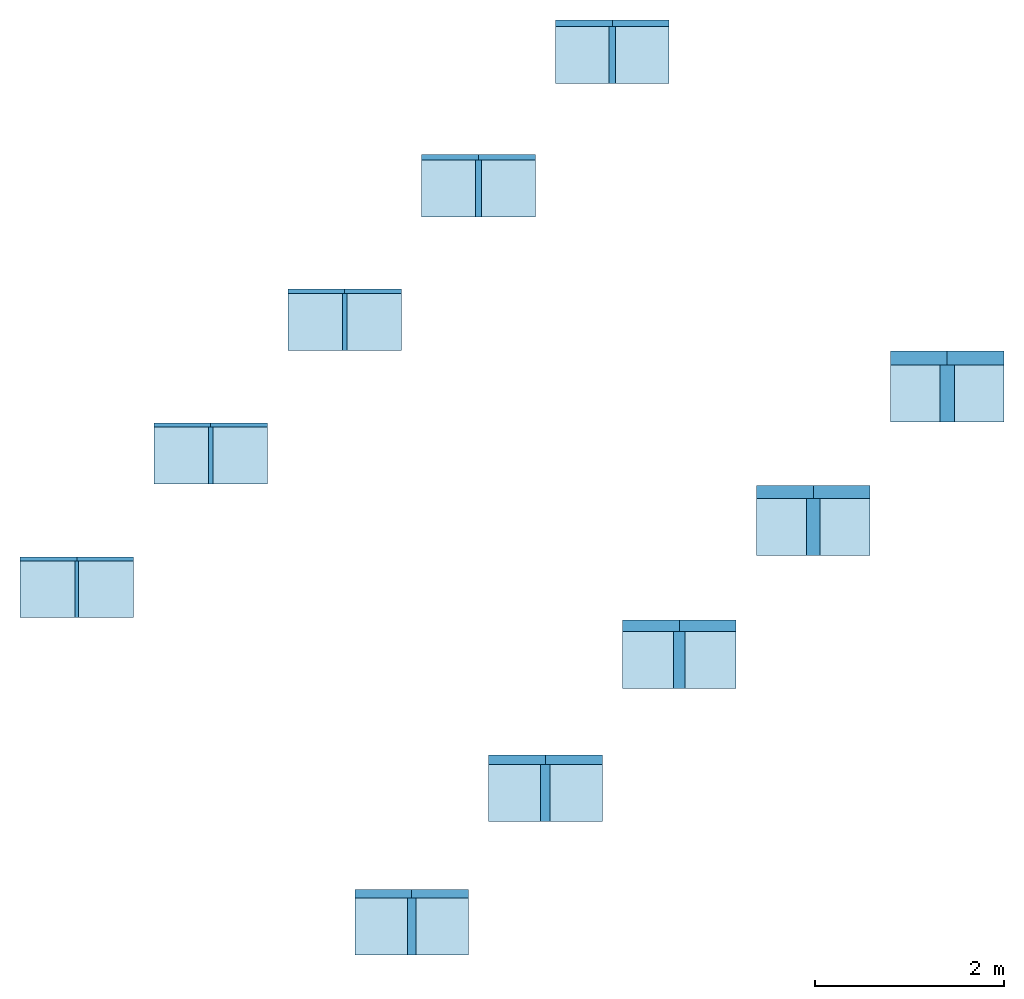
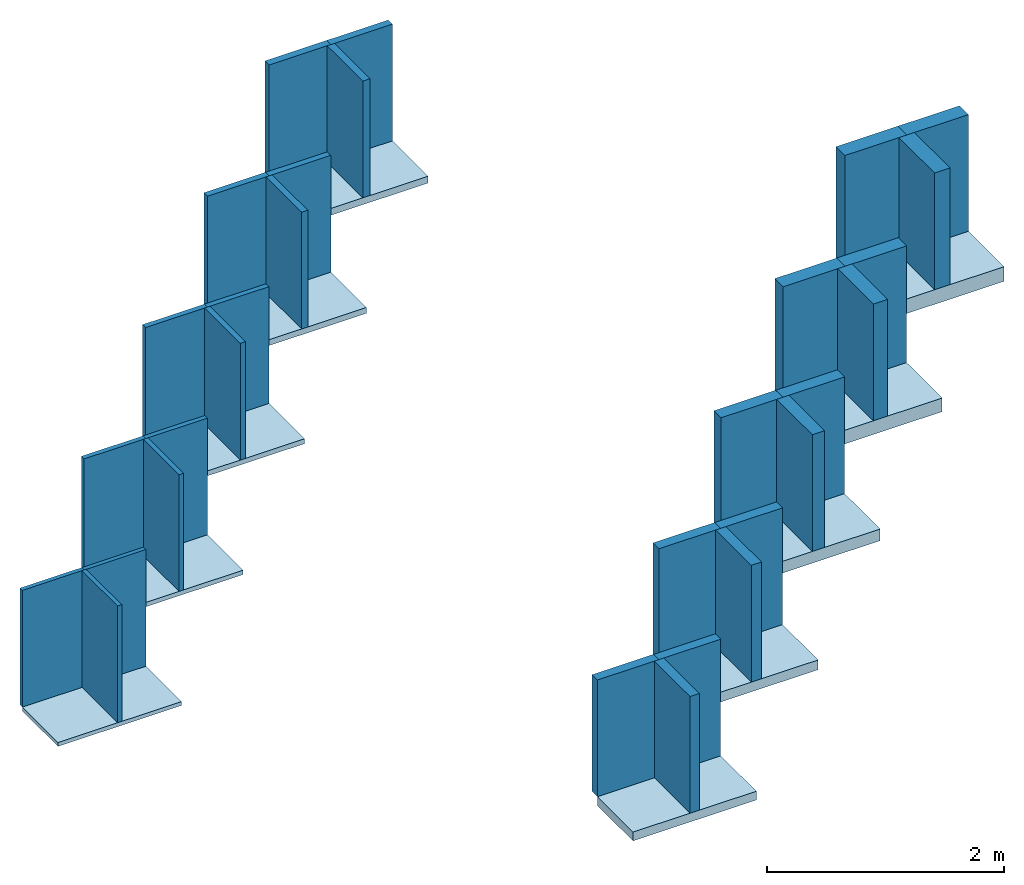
# One storey: 30 walls, 10 slabs.
"""IFC2X3 building model written with IfcOpenShell, lengths in millimetres."""

from ifc_helpers import new_model, entity, si_unit, converted_unit, derived_unit, direction, frame, frame_2d, origin, origin_2d_with_axis, place, context, subcontext, project, spatial, rectangle, extrude, material, layer, layer_set, layer_usage, type_object, element, save


model = new_model("IFC2X3")

# Units and contexts
model_context = context("Model", 3, precision=0.01, world=origin(), true_north=direction((6.12303176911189e-17, 1.0)))
context_of_model = context(None, 3, precision=0.01, world=origin(), true_north=direction((6.12303176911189e-17, 1.0)))
body_context = subcontext(model_context, "Body", "Model", "MODEL_VIEW")
ifc_project = project(units=[si_unit("LENGTHUNIT", "METRE", prefix="MILLI"), si_unit("AREAUNIT", "SQUARE_METRE"), si_unit("VOLUMEUNIT", "CUBIC_METRE"), converted_unit("PLANEANGLEUNIT", "DEGREE", entity("IfcRatioMeasure", 0.0174532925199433), si_unit("PLANEANGLEUNIT", "RADIAN"), dimensions=[0, 0, 0, 0, 0, 0, 0]), si_unit("MASSUNIT", "GRAM", prefix="KILO"), derived_unit("MASSDENSITYUNIT", [(si_unit("MASSUNIT", "GRAM", prefix="KILO"), 1), (si_unit("LENGTHUNIT", "METRE"), -3)]), si_unit("TIMEUNIT", "SECOND"), si_unit("FREQUENCYUNIT", "HERTZ"), si_unit("THERMODYNAMICTEMPERATUREUNIT", "DEGREE_CELSIUS"), derived_unit("THERMALTRANSMITTANCEUNIT", [(si_unit("MASSUNIT", "GRAM", prefix="KILO"), 1), (si_unit("THERMODYNAMICTEMPERATUREUNIT", "KELVIN"), -1), (si_unit("TIMEUNIT", "SECOND"), -3)]), derived_unit("VOLUMETRICFLOWRATEUNIT", [(si_unit("LENGTHUNIT", "METRE"), 3), (si_unit("TIMEUNIT", "SECOND"), -1)]), si_unit("ELECTRICCURRENTUNIT", "AMPERE"), si_unit("ELECTRICVOLTAGEUNIT", "VOLT"), si_unit("POWERUNIT", "WATT"), si_unit("FORCEUNIT", "NEWTON", prefix="KILO"), si_unit("ILLUMINANCEUNIT", "LUX"), si_unit("LUMINOUSFLUXUNIT", "LUMEN"), si_unit("LUMINOUSINTENSITYUNIT", "CANDELA"), derived_unit("USERDEFINED", [(si_unit("MASSUNIT", "GRAM", prefix="KILO"), -1), (si_unit("LENGTHUNIT", "METRE"), -2), (si_unit("TIMEUNIT", "SECOND"), 3), (si_unit("LUMINOUSFLUXUNIT", "LUMEN"), 1)]), derived_unit("LINEARVELOCITYUNIT", [(si_unit("LENGTHUNIT", "METRE"), 1), (si_unit("TIMEUNIT", "SECOND"), -1)]), si_unit("PRESSUREUNIT", "PASCAL"), derived_unit("USERDEFINED", [(si_unit("LENGTHUNIT", "METRE"), -2), (si_unit("MASSUNIT", "GRAM", prefix="KILO"), 1), (si_unit("TIMEUNIT", "SECOND"), -2)])], contexts=[model_context, context_of_model])

# Site, building, storey
site_placement = place(None, origin())
site = spatial("IfcSite", under=ifc_project, at=site_placement, Name="Default", CompositionType="ELEMENT")
building_placement = place(site_placement, origin())
building = spatial("IfcBuilding", under=site, at=building_placement, CompositionType="ELEMENT")
storey_placement = place(building_placement, origin())
storey = spatial("IfcBuildingStorey", under=building, at=storey_placement, Name="begane grond", CompositionType="ELEMENT", Elevation=0.0)

# Slabs
ifc_material = material(Name="Knauf Insulation_Mineral Wool 35  Ecose®minerale wol")
ifc_layer_1 = layer(ifc_material, 40.0)
ifc_layer_set_1 = layer_set([ifc_layer_1], Name="Floor:NLRS_23_FL_Mineral Wool_40x600x1200mm")
ifc_layer_usage_1 = layer_usage(ifc_layer_set_1, "AXIS3", "POSITIVE", 0.0)
slab_type_1 = type_object("IfcSlabType", Name="Floor:NLRS_23_FL_Mineral Wool_40x600x1200mm", PredefinedType="FLOOR", material=ifc_layer_set_1)
slab_1_placement = place(storey_placement, origin())
element("IfcSlab", 1, at=slab_1_placement, inside=storey, type_object=slab_type_1, material=ifc_layer_usage_1, Name="Floor:NLRS_23_FL_Mineral Wool_40x600x1200mm:4095", ObjectType="Floor:NLRS_23_FL_Mineral Wool_40x600x1200mm", PredefinedType="FLOOR", context=body_context, shape_type="SweptSolid", body=[
    extrude(rectangle(XDim=600.0, YDim=1200.0, at=origin_2d_with_axis()), frame((1034.53865336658, 2104.56359102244, 0.0), z_axis=(0.0, 0.0, -1.0), x_axis=(0.0, 1.0, 0.0)), (0.0, 0.0, 1.0), 40.0),
])
ifc_layer_2 = layer(ifc_material, 45.0)
ifc_layer_set_2 = layer_set([ifc_layer_2], Name="Floor:NLRS_23_FL_Mineral Wool_45x600x1200mm")
ifc_layer_usage_2 = layer_usage(ifc_layer_set_2, "AXIS3", "POSITIVE", 0.0)
slab_type_2 = type_object("IfcSlabType", Name="Floor:NLRS_23_FL_Mineral Wool_45x600x1200mm", PredefinedType="FLOOR", material=ifc_layer_set_2)
slab_2_placement = place(storey_placement, origin())
element("IfcSlab", 2, at=slab_2_placement, inside=storey, type_object=slab_type_2, material=ifc_layer_usage_2, Name="Floor:NLRS_23_FL_Mineral Wool_45x600x1200mm:4236", ObjectType="Floor:NLRS_23_FL_Mineral Wool_45x600x1200mm", PredefinedType="FLOOR", context=body_context, shape_type="SweptSolid", body=[
    extrude(rectangle(XDim=600.0, YDim=1200.0, at=frame_2d((0.0, 2.8421709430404e-13), x_axis=(1.0, 0.0))), frame((2448.75221573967, 3516.27715339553, 0.0), z_axis=(0.0, 0.0, -1.0), x_axis=(0.0, 1.0, 0.0)), (0.0, 0.0, 1.0), 45.0),
])
ifc_layer_3 = layer(ifc_material, 50.0)
ifc_layer_set_3 = layer_set([ifc_layer_3], Name="Floor:NLRS_23_FL_Mineral Wool_50x600x1200mm")
ifc_layer_usage_3 = layer_usage(ifc_layer_set_3, "AXIS3", "POSITIVE", 0.0)
slab_type_3 = type_object("IfcSlabType", Name="Floor:NLRS_23_FL_Mineral Wool_50x600x1200mm", PredefinedType="FLOOR", material=ifc_layer_set_3)
slab_3_placement = place(storey_placement, origin())
element("IfcSlab", 3, at=slab_3_placement, inside=storey, type_object=slab_type_3, material=ifc_layer_usage_3, Name="Floor:NLRS_23_FL_Mineral Wool_50x600x1200mm:4284", ObjectType="Floor:NLRS_23_FL_Mineral Wool_50x600x1200mm", PredefinedType="FLOOR", context=body_context, shape_type="SweptSolid", body=[
    extrude(rectangle(XDim=600.000000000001, YDim=1200.0, at=frame_2d((-2.8421709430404e-13, 0.0), x_axis=(1.0, 0.0))), frame((3862.96577811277, 4927.99071576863, 0.0), z_axis=(0.0, 0.0, -1.0), x_axis=(0.0, 1.0, 0.0)), (0.0, 0.0, 1.0), 50.0),
])
ifc_layer_4 = layer(ifc_material, 60.0)
ifc_layer_set_4 = layer_set([ifc_layer_4], Name="Floor:NLRS_23_FL_Mineral Wool_60x600x1200mm")
ifc_layer_usage_4 = layer_usage(ifc_layer_set_4, "AXIS3", "POSITIVE", 0.0)
slab_type_4 = type_object("IfcSlabType", Name="Floor:NLRS_23_FL_Mineral Wool_60x600x1200mm", PredefinedType="FLOOR", material=ifc_layer_set_4)
slab_4_placement = place(storey_placement, origin())
element("IfcSlab", 4, at=slab_4_placement, inside=storey, type_object=slab_type_4, material=ifc_layer_usage_4, Name="Floor:NLRS_23_FL_Mineral Wool_60x600x1200mm:4293", ObjectType="Floor:NLRS_23_FL_Mineral Wool_60x600x1200mm", PredefinedType="FLOOR", context=body_context, shape_type="SweptSolid", body=[
    extrude(rectangle(XDim=600.0, YDim=1200.0, at=origin_2d_with_axis()), frame((5277.17934048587, 6337.20427814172, 0.0), z_axis=(0.0, 0.0, -1.0), x_axis=(0.0, 1.0, 0.0)), (0.0, 0.0, 1.0), 60.0),
])
ifc_layer_5 = layer(ifc_material, 70.0)
ifc_layer_set_5 = layer_set([ifc_layer_5], Name="Floor:NLRS_23_FL_Mineral Wool_70x600x1200mm")
ifc_layer_usage_5 = layer_usage(ifc_layer_set_5, "AXIS3", "POSITIVE", 0.0)
slab_type_5 = type_object("IfcSlabType", Name="Floor:NLRS_23_FL_Mineral Wool_70x600x1200mm", PredefinedType="FLOOR", material=ifc_layer_set_5)
slab_5_placement = place(storey_placement, origin())
element("IfcSlab", 5, at=slab_5_placement, inside=storey, type_object=slab_type_5, material=ifc_layer_usage_5, Name="Floor:NLRS_23_FL_Mineral Wool_70x600x1200mm:4302", ObjectType="Floor:NLRS_23_FL_Mineral Wool_70x600x1200mm", PredefinedType="FLOOR", context=body_context, shape_type="SweptSolid", body=[
    extrude(rectangle(XDim=600.0, YDim=1200.0, at=origin_2d_with_axis()), frame((6691.39290285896, 7746.41784051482, 0.0), z_axis=(0.0, 0.0, -1.0), x_axis=(0.0, 1.0, 0.0)), (0.0, 0.0, 1.0), 70.0),
])
ifc_layer_6 = layer(ifc_material, 90.0)
ifc_layer_set_6 = layer_set([ifc_layer_6], Name="Floor:NLRS_23_FL_Mineral Wool_90x600x1200mm")
ifc_layer_usage_6 = layer_usage(ifc_layer_set_6, "AXIS3", "POSITIVE", 0.0)
slab_type_6 = type_object("IfcSlabType", Name="Floor:NLRS_23_FL_Mineral Wool_90x600x1200mm", PredefinedType="FLOOR", material=ifc_layer_set_6)
slab_6_placement = place(storey_placement, origin())
element("IfcSlab", 6, at=slab_6_placement, inside=storey, type_object=slab_type_6, material=ifc_layer_usage_6, Name="Floor:NLRS_23_FL_Mineral Wool_90x600x1200mm:4688", ObjectType="Floor:NLRS_23_FL_Mineral Wool_90x600x1200mm", PredefinedType="FLOOR", context=body_context, shape_type="SweptSolid", body=[
    extrude(rectangle(XDim=600.0, YDim=1200.0, at=origin_2d_with_axis()), frame((4570.07255929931, -1455.97031491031, 0.0), z_axis=(0.0, 0.0, -1.0), x_axis=(0.0, 1.0, 0.0)), (0.0, 0.0, 1.0), 90.0),
])
ifc_layer_7 = layer(ifc_material, 100.0)
ifc_layer_set_7 = layer_set([ifc_layer_7], Name="Floor:NLRS_23_FL_Mineral Wool_100x600x1200mm")
ifc_layer_usage_7 = layer_usage(ifc_layer_set_7, "AXIS3", "POSITIVE", 0.0)
slab_type_7 = type_object("IfcSlabType", Name="Floor:NLRS_23_FL_Mineral Wool_100x600x1200mm", PredefinedType="FLOOR", material=ifc_layer_set_7)
slab_7_placement = place(storey_placement, origin())
element("IfcSlab", 7, at=slab_7_placement, inside=storey, type_object=slab_type_7, material=ifc_layer_usage_7, Name="Floor:NLRS_23_FL_Mineral Wool_100x600x1200mm:5011", ObjectType="Floor:NLRS_23_FL_Mineral Wool_100x600x1200mm", PredefinedType="FLOOR", context=body_context, shape_type="SweptSolid", body=[
    extrude(rectangle(XDim=600.0, YDim=1200.0, at=origin_2d_with_axis()), frame((5984.2861216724, -46.7567525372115, 0.0), z_axis=(0.0, 0.0, -1.0), x_axis=(0.0, 1.0, 0.0)), (0.0, 0.0, 1.0), 100.0),
])
ifc_layer_8 = layer(ifc_material, 120.0)
ifc_layer_set_8 = layer_set([ifc_layer_8], Name="Floor:NLRS_23_FL_Mineral Wool_120x600x1200mm")
ifc_layer_usage_8 = layer_usage(ifc_layer_set_8, "AXIS3", "POSITIVE", 0.0)
slab_type_8 = type_object("IfcSlabType", Name="Floor:NLRS_23_FL_Mineral Wool_120x600x1200mm", PredefinedType="FLOOR", material=ifc_layer_set_8)
slab_8_placement = place(storey_placement, origin())
element("IfcSlab", 8, at=slab_8_placement, inside=storey, type_object=slab_type_8, material=ifc_layer_usage_8, Name="Floor:NLRS_23_FL_Mineral Wool_120x600x1200mm:5060", ObjectType="Floor:NLRS_23_FL_Mineral Wool_120x600x1200mm", PredefinedType="FLOOR", context=body_context, shape_type="SweptSolid", body=[
    extrude(rectangle(XDim=600.0, YDim=1200.0, at=origin_2d_with_axis()), frame((7398.4996840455, 1357.45680983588, 0.0), z_axis=(0.0, 0.0, -1.0), x_axis=(0.0, 1.0, 0.0)), (0.0, 0.0, 1.0), 120.0),
])
ifc_layer_9 = layer(ifc_material, 140.0)
ifc_layer_set_9 = layer_set([ifc_layer_9], Name="Floor:NLRS_23_FL_Mineral Wool_140x600x1200mm")
ifc_layer_usage_9 = layer_usage(ifc_layer_set_9, "AXIS3", "POSITIVE", 0.0)
slab_type_9 = type_object("IfcSlabType", Name="Floor:NLRS_23_FL_Mineral Wool_140x600x1200mm", PredefinedType="FLOOR", material=ifc_layer_set_9)
slab_9_placement = place(storey_placement, origin())
element("IfcSlab", 9, at=slab_9_placement, inside=storey, type_object=slab_type_9, material=ifc_layer_usage_9, Name="Floor:NLRS_23_FL_Mineral Wool_140x600x1200mm:5083", ObjectType="Floor:NLRS_23_FL_Mineral Wool_140x600x1200mm", PredefinedType="FLOOR", context=body_context, shape_type="SweptSolid", body=[
    extrude(rectangle(XDim=600.0, YDim=1200.0, at=origin_2d_with_axis()), frame((8812.71324641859, 2761.67037220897, 0.0), z_axis=(0.0, 0.0, -1.0), x_axis=(0.0, 1.0, 0.0)), (0.0, 0.0, 1.0), 140.0),
])
ifc_layer_10 = layer(ifc_material, 150.0)
ifc_layer_set_10 = layer_set([ifc_layer_10], Name="Floor:NLRS_23_FL_Mineral Wool_150x600x1200mm")
ifc_layer_usage_10 = layer_usage(ifc_layer_set_10, "AXIS3", "POSITIVE", 0.0)
slab_type_10 = type_object("IfcSlabType", Name="Floor:NLRS_23_FL_Mineral Wool_150x600x1200mm", PredefinedType="FLOOR", material=ifc_layer_set_10)
slab_10_placement = place(storey_placement, origin())
element("IfcSlab", 10, at=slab_10_placement, inside=storey, type_object=slab_type_10, material=ifc_layer_usage_10, Name="Floor:NLRS_23_FL_Mineral Wool_150x600x1200mm:5092", ObjectType="Floor:NLRS_23_FL_Mineral Wool_150x600x1200mm", PredefinedType="FLOOR", context=body_context, shape_type="SweptSolid", body=[
    extrude(rectangle(XDim=600.0, YDim=1200.0, at=origin_2d_with_axis()), frame((10226.9268087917, 4170.88393458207, 0.0), z_axis=(0.0, 0.0, -1.0), x_axis=(0.0, 1.0, 0.0)), (0.0, 0.0, 1.0), 150.0),
])

# Walls
ifc_layer_11 = layer(ifc_material, 40.0)
ifc_layer_set_11 = layer_set([ifc_layer_11], Name="Basic Wall:NLRS_22_WA_Mineral Wool 35_40x600x1200mm")
ifc_layer_usage_11 = layer_usage(ifc_layer_set_11, "AXIS2", "NEGATIVE", 20.0)
wall_type_1 = type_object("IfcWallType", Name="Basic Wall:NLRS_22_WA_Mineral Wool 35_40x600x1200mm", PredefinedType="STANDARD", material=ifc_layer_set_11)
wall_1_placement = place(storey_placement, frame((434.538653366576, 2424.56359102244, 0.0)))
element("IfcWallStandardCase", 11, at=wall_1_placement, inside=storey, type_object=wall_type_1, material=ifc_layer_usage_11, Name="Basic Wall:NLRS_22_WA_Mineral Wool 35_40x600x1200mm:2458", ObjectType="Basic Wall:NLRS_22_WA_Mineral Wool 35_40x600x1200mm", context=body_context, shape_type="SweptSolid", body=[
    extrude(rectangle(XDim=600.0, YDim=39.9999999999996, at=frame_2d((300.0, -2.71782596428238e-13), x_axis=(-1.0, 0.0))), origin(), (0.0, 0.0, 1.0), 1200.0),
])
ifc_layer_usage_12 = layer_usage(ifc_layer_set_11, "AXIS2", "NEGATIVE", 20.0)
wall_2_placement = place(storey_placement, frame((1034.53865336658, 2424.56359102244, 0.0)))
element("IfcWallStandardCase", 12, at=wall_2_placement, inside=storey, type_object=wall_type_1, material=ifc_layer_usage_12, Name="Basic Wall:NLRS_22_WA_Mineral Wool 35_40x600x1200mm:3351", ObjectType="Basic Wall:NLRS_22_WA_Mineral Wool 35_40x600x1200mm", context=body_context, shape_type="SweptSolid", body=[
    extrude(rectangle(XDim=600.0, YDim=39.9999999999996, at=frame_2d((300.0, -2.71782596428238e-13), x_axis=(-1.0, 0.0))), origin(), (0.0, 0.0, 1.0), 1200.0),
])
ifc_layer_usage_13 = layer_usage(ifc_layer_set_11, "AXIS2", "NEGATIVE", 20.0)
wall_3_placement = place(storey_placement, frame((1034.53865336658, 2404.56359102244, 0.0), z_axis=(0.0, 0.0, 1.0), x_axis=(0.0, -1.0, 0.0)))
element("IfcWallStandardCase", 13, at=wall_3_placement, inside=storey, type_object=wall_type_1, material=ifc_layer_usage_13, Name="Basic Wall:NLRS_22_WA_Mineral Wool 35_40x600x1200mm:3395", ObjectType="Basic Wall:NLRS_22_WA_Mineral Wool 35_40x600x1200mm", context=body_context, shape_type="SweptSolid", body=[
    extrude(rectangle(XDim=600.0, YDim=40.0000000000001, at=frame_2d((300.0, 0.0), x_axis=(-1.0, 0.0))), origin(), (0.0, 0.0, 1.0), 1200.0),
])
ifc_layer_12 = layer(ifc_material, 45.0)
ifc_layer_set_12 = layer_set([ifc_layer_12], Name="Basic Wall:NLRS_22_WA_Mineral Wool 35_45x600x1200mm")
ifc_layer_usage_14 = layer_usage(ifc_layer_set_12, "AXIS2", "NEGATIVE", 22.5)
wall_type_2 = type_object("IfcWallType", Name="Basic Wall:NLRS_22_WA_Mineral Wool 35_45x600x1200mm", PredefinedType="STANDARD", material=ifc_layer_set_12)
wall_4_placement = place(storey_placement, frame((1848.75221573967, 3838.77715339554, 0.0)))
element("IfcWallStandardCase", 14, at=wall_4_placement, inside=storey, type_object=wall_type_2, material=ifc_layer_usage_14, Name="Basic Wall:NLRS_22_WA_Mineral Wool 35_45x600x1200mm:3514", ObjectType="Basic Wall:NLRS_22_WA_Mineral Wool 35_45x600x1200mm", context=body_context, shape_type="SweptSolid", body=[
    extrude(rectangle(XDim=600.0, YDim=44.9999999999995, at=frame_2d((300.0, -1.35003119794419e-13), x_axis=(-1.0, 0.0))), origin(), (0.0, 0.0, 1.0), 1200.0),
])
ifc_layer_usage_15 = layer_usage(ifc_layer_set_12, "AXIS2", "NEGATIVE", 22.5)
wall_5_placement = place(storey_placement, frame((2448.75221573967, 3838.77715339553, 0.0)))
element("IfcWallStandardCase", 15, at=wall_5_placement, inside=storey, type_object=wall_type_2, material=ifc_layer_usage_15, Name="Basic Wall:NLRS_22_WA_Mineral Wool 35_45x600x1200mm:3516", ObjectType="Basic Wall:NLRS_22_WA_Mineral Wool 35_45x600x1200mm", context=body_context, shape_type="SweptSolid", body=[
    extrude(rectangle(XDim=600.0, YDim=44.9999999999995, at=frame_2d((300.0, -1.35003119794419e-13), x_axis=(-1.0, 0.0))), origin(), (0.0, 0.0, 1.0), 1200.0),
])
ifc_layer_usage_16 = layer_usage(ifc_layer_set_12, "AXIS2", "NEGATIVE", 22.5)
wall_6_placement = place(storey_placement, frame((2448.75221573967, 3816.27715339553, 0.0), z_axis=(0.0, 0.0, 1.0), x_axis=(0.0, -1.0, 0.0)))
element("IfcWallStandardCase", 16, at=wall_6_placement, inside=storey, type_object=wall_type_2, material=ifc_layer_usage_16, Name="Basic Wall:NLRS_22_WA_Mineral Wool 35_45x600x1200mm:3517", ObjectType="Basic Wall:NLRS_22_WA_Mineral Wool 35_45x600x1200mm", context=body_context, shape_type="SweptSolid", body=[
    extrude(rectangle(XDim=600.0, YDim=44.9999999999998, at=frame_2d((300.0, -1.33226762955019e-13), x_axis=(-1.0, 0.0))), origin(), (0.0, 0.0, 1.0), 1200.0),
])
ifc_layer_13 = layer(ifc_material, 50.0)
ifc_layer_set_13 = layer_set([ifc_layer_13], Name="Basic Wall:NLRS_22_WA_Mineral Wool 35_50x600x1200mm")
ifc_layer_usage_17 = layer_usage(ifc_layer_set_13, "AXIS2", "NEGATIVE", 25.0)
wall_type_3 = type_object("IfcWallType", Name="Basic Wall:NLRS_22_WA_Mineral Wool 35_50x600x1200mm", PredefinedType="STANDARD", material=ifc_layer_set_13)
wall_7_placement = place(storey_placement, frame((3262.96577811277, 5252.99071576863, 0.0)))
element("IfcWallStandardCase", 17, at=wall_7_placement, inside=storey, type_object=wall_type_3, material=ifc_layer_usage_17, Name="Basic Wall:NLRS_22_WA_Mineral Wool 35_50x600x1200mm:3581", ObjectType="Basic Wall:NLRS_22_WA_Mineral Wool 35_50x600x1200mm", context=body_context, shape_type="SweptSolid", body=[
    extrude(rectangle(XDim=600.0, YDim=49.9999999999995, at=frame_2d((300.0, -1.35003119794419e-13), x_axis=(-1.0, 0.0))), origin(), (0.0, 0.0, 1.0), 1200.0),
])
ifc_layer_usage_18 = layer_usage(ifc_layer_set_13, "AXIS2", "NEGATIVE", 25.0)
wall_8_placement = place(storey_placement, frame((3862.96577811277, 5252.99071576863, 0.0)))
element("IfcWallStandardCase", 18, at=wall_8_placement, inside=storey, type_object=wall_type_3, material=ifc_layer_usage_18, Name="Basic Wall:NLRS_22_WA_Mineral Wool 35_50x600x1200mm:3582", ObjectType="Basic Wall:NLRS_22_WA_Mineral Wool 35_50x600x1200mm", context=body_context, shape_type="SweptSolid", body=[
    extrude(rectangle(XDim=600.0, YDim=49.9999999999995, at=frame_2d((300.0, -1.35003119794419e-13), x_axis=(-1.0, 0.0))), origin(), (0.0, 0.0, 1.0), 1200.0),
])
ifc_layer_usage_19 = layer_usage(ifc_layer_set_13, "AXIS2", "NEGATIVE", 25.0)
wall_9_placement = place(storey_placement, frame((3862.96577811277, 5227.99071576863, 0.0), z_axis=(0.0, 0.0, 1.0), x_axis=(0.0, -1.0, 0.0)))
element("IfcWallStandardCase", 19, at=wall_9_placement, inside=storey, type_object=wall_type_3, material=ifc_layer_usage_19, Name="Basic Wall:NLRS_22_WA_Mineral Wool 35_50x600x1200mm:3583", ObjectType="Basic Wall:NLRS_22_WA_Mineral Wool 35_50x600x1200mm", context=body_context, shape_type="SweptSolid", body=[
    extrude(rectangle(XDim=600.000000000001, YDim=50.0000000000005, at=frame_2d((300.0, 3.5527136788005e-15), x_axis=(-1.0, 0.0))), origin(), (0.0, 0.0, 1.0), 1200.0),
])
ifc_layer_14 = layer(ifc_material, 60.0)
ifc_layer_set_14 = layer_set([ifc_layer_14], Name="Basic Wall:NLRS_22_WA_Mineral Wool 35_60x600x1200mm")
ifc_layer_usage_20 = layer_usage(ifc_layer_set_14, "AXIS2", "NEGATIVE", 30.0)
wall_type_4 = type_object("IfcWallType", Name="Basic Wall:NLRS_22_WA_Mineral Wool 35_60x600x1200mm", PredefinedType="STANDARD", material=ifc_layer_set_14)
wall_10_placement = place(storey_placement, frame((4677.17934048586, 6667.20427814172, 0.0)))
element("IfcWallStandardCase", 20, at=wall_10_placement, inside=storey, type_object=wall_type_4, material=ifc_layer_usage_20, Name="Basic Wall:NLRS_22_WA_Mineral Wool 35_60x600x1200mm:3682", ObjectType="Basic Wall:NLRS_22_WA_Mineral Wool 35_60x600x1200mm", context=body_context, shape_type="SweptSolid", body=[
    extrude(rectangle(XDim=600.0, YDim=59.9999999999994, at=frame_2d((300.0, -1.35003119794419e-13), x_axis=(-1.0, 0.0))), origin(), (0.0, 0.0, 1.0), 1200.0),
])
ifc_layer_usage_21 = layer_usage(ifc_layer_set_14, "AXIS2", "NEGATIVE", 30.0)
wall_11_placement = place(storey_placement, frame((5277.17934048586, 6667.20427814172, 0.0)))
element("IfcWallStandardCase", 21, at=wall_11_placement, inside=storey, type_object=wall_type_4, material=ifc_layer_usage_21, Name="Basic Wall:NLRS_22_WA_Mineral Wool 35_60x600x1200mm:3683", ObjectType="Basic Wall:NLRS_22_WA_Mineral Wool 35_60x600x1200mm", context=body_context, shape_type="SweptSolid", body=[
    extrude(rectangle(XDim=600.0, YDim=59.9999999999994, at=frame_2d((300.0, -1.35003119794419e-13), x_axis=(-1.0, 0.0))), origin(), (0.0, 0.0, 1.0), 1200.0),
])
ifc_layer_usage_22 = layer_usage(ifc_layer_set_14, "AXIS2", "NEGATIVE", 30.0)
wall_12_placement = place(storey_placement, frame((5277.17934048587, 6637.20427814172, 0.0), z_axis=(0.0, 0.0, 1.0), x_axis=(0.0, -1.0, 0.0)))
element("IfcWallStandardCase", 22, at=wall_12_placement, inside=storey, type_object=wall_type_4, material=ifc_layer_usage_22, Name="Basic Wall:NLRS_22_WA_Mineral Wool 35_60x600x1200mm:3684", ObjectType="Basic Wall:NLRS_22_WA_Mineral Wool 35_60x600x1200mm", context=body_context, shape_type="SweptSolid", body=[
    extrude(rectangle(XDim=599.999999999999, YDim=59.9999999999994, at=frame_2d((299.999999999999, -6.75015598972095e-14), x_axis=(-1.0, 0.0))), origin(), (0.0, 0.0, 1.0), 1200.0),
])
ifc_layer_15 = layer(ifc_material, 70.0)
ifc_layer_set_15 = layer_set([ifc_layer_15], Name="Basic Wall:NLRS_22_WA_Mineral Wool 35_70x600x1200mm")
ifc_layer_usage_23 = layer_usage(ifc_layer_set_15, "AXIS2", "NEGATIVE", 35.0)
wall_type_5 = type_object("IfcWallType", Name="Basic Wall:NLRS_22_WA_Mineral Wool 35_70x600x1200mm", PredefinedType="STANDARD", material=ifc_layer_set_15)
wall_13_placement = place(storey_placement, frame((6091.39290285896, 8081.41784051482, 0.0)))
element("IfcWallStandardCase", 23, at=wall_13_placement, inside=storey, type_object=wall_type_5, material=ifc_layer_usage_23, Name="Basic Wall:NLRS_22_WA_Mineral Wool 35_70x600x1200mm:3760", ObjectType="Basic Wall:NLRS_22_WA_Mineral Wool 35_70x600x1200mm", context=body_context, shape_type="SweptSolid", body=[
    extrude(rectangle(XDim=600.0, YDim=69.9999999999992, at=frame_2d((300.0, -1.35003119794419e-13), x_axis=(-1.0, 0.0))), origin(), (0.0, 0.0, 1.0), 1200.0),
])
ifc_layer_usage_24 = layer_usage(ifc_layer_set_15, "AXIS2", "NEGATIVE", 35.0)
wall_14_placement = place(storey_placement, frame((6691.39290285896, 8081.41784051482, 0.0)))
element("IfcWallStandardCase", 24, at=wall_14_placement, inside=storey, type_object=wall_type_5, material=ifc_layer_usage_24, Name="Basic Wall:NLRS_22_WA_Mineral Wool 35_70x600x1200mm:3761", ObjectType="Basic Wall:NLRS_22_WA_Mineral Wool 35_70x600x1200mm", context=body_context, shape_type="SweptSolid", body=[
    extrude(rectangle(XDim=600.0, YDim=69.9999999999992, at=frame_2d((300.0, -1.35003119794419e-13), x_axis=(-1.0, 0.0))), origin(), (0.0, 0.0, 1.0), 1200.0),
])
ifc_layer_usage_25 = layer_usage(ifc_layer_set_15, "AXIS2", "NEGATIVE", 35.0)
wall_15_placement = place(storey_placement, frame((6691.39290285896, 8046.41784051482, 0.0), z_axis=(0.0, 0.0, 1.0), x_axis=(0.0, -1.0, 0.0)))
element("IfcWallStandardCase", 25, at=wall_15_placement, inside=storey, type_object=wall_type_5, material=ifc_layer_usage_25, Name="Basic Wall:NLRS_22_WA_Mineral Wool 35_70x600x1200mm:3762", ObjectType="Basic Wall:NLRS_22_WA_Mineral Wool 35_70x600x1200mm", context=body_context, shape_type="SweptSolid", body=[
    extrude(rectangle(XDim=599.999999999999, YDim=69.9999999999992, at=frame_2d((299.999999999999, -6.75015598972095e-14), x_axis=(-1.0, 0.0))), origin(), (0.0, 0.0, 1.0), 1200.0),
])
ifc_layer_16 = layer(ifc_material, 90.0)
ifc_layer_set_16 = layer_set([ifc_layer_16], Name="Basic Wall:NLRS_22_WA_Mineral Wool 35_90x600x1200mm")
ifc_layer_usage_26 = layer_usage(ifc_layer_set_16, "AXIS2", "NEGATIVE", 45.0)
wall_type_6 = type_object("IfcWallType", Name="Basic Wall:NLRS_22_WA_Mineral Wool 35_90x600x1200mm", PredefinedType="STANDARD", material=ifc_layer_set_16)
wall_16_placement = place(storey_placement, frame((3970.07255929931, -1110.97031491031, 0.0)))
element("IfcWallStandardCase", 26, at=wall_16_placement, inside=storey, type_object=wall_type_6, material=ifc_layer_usage_26, Name="Basic Wall:NLRS_22_WA_Mineral Wool 35_90x600x1200mm:3864", ObjectType="Basic Wall:NLRS_22_WA_Mineral Wool 35_90x600x1200mm", context=body_context, shape_type="SweptSolid", body=[
    extrude(rectangle(XDim=600.000000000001, YDim=90.0000000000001, at=frame_2d((300.0, 0.0), x_axis=(-1.0, 0.0))), origin(), (0.0, 0.0, 1.0), 1200.0),
])
ifc_layer_usage_27 = layer_usage(ifc_layer_set_16, "AXIS2", "NEGATIVE", 45.0)
wall_17_placement = place(storey_placement, frame((4570.07255929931, -1110.97031491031, 0.0)))
element("IfcWallStandardCase", 27, at=wall_17_placement, inside=storey, type_object=wall_type_6, material=ifc_layer_usage_27, Name="Basic Wall:NLRS_22_WA_Mineral Wool 35_90x600x1200mm:3866", ObjectType="Basic Wall:NLRS_22_WA_Mineral Wool 35_90x600x1200mm", context=body_context, shape_type="SweptSolid", body=[
    extrude(rectangle(XDim=600.000000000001, YDim=90.0000000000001, at=frame_2d((300.0, 0.0), x_axis=(-1.0, 0.0))), origin(), (0.0, 0.0, 1.0), 1200.0),
])
ifc_layer_usage_28 = layer_usage(ifc_layer_set_16, "AXIS2", "NEGATIVE", 45.0)
wall_18_placement = place(storey_placement, frame((4570.07255929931, -1155.97031491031, 0.0), z_axis=(0.0, 0.0, 1.0), x_axis=(0.0, -1.0, 0.0)))
element("IfcWallStandardCase", 28, at=wall_18_placement, inside=storey, type_object=wall_type_6, material=ifc_layer_usage_28, Name="Basic Wall:NLRS_22_WA_Mineral Wool 35_90x600x1200mm:3867", ObjectType="Basic Wall:NLRS_22_WA_Mineral Wool 35_90x600x1200mm", context=body_context, shape_type="SweptSolid", body=[
    extrude(rectangle(XDim=600.0, YDim=90.0000000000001, at=frame_2d((300.0, -6.75015598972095e-14), x_axis=(-1.0, 0.0))), origin(), (0.0, 0.0, 1.0), 1200.0),
])
ifc_layer_17 = layer(ifc_material, 100.0)
ifc_layer_set_17 = layer_set([ifc_layer_17], Name="Basic Wall:NLRS_22_WA_Mineral Wool 35_100x600x1200mm")
ifc_layer_usage_29 = layer_usage(ifc_layer_set_17, "AXIS2", "NEGATIVE", 50.0)
wall_type_7 = type_object("IfcWallType", Name="Basic Wall:NLRS_22_WA_Mineral Wool 35_100x600x1200mm", PredefinedType="STANDARD", material=ifc_layer_set_17)
wall_19_placement = place(storey_placement, frame((5384.2861216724, 303.24324746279, 0.0)))
element("IfcWallStandardCase", 29, at=wall_19_placement, inside=storey, type_object=wall_type_7, material=ifc_layer_usage_29, Name="Basic Wall:NLRS_22_WA_Mineral Wool 35_100x600x1200mm:3868", ObjectType="Basic Wall:NLRS_22_WA_Mineral Wool 35_100x600x1200mm", context=body_context, shape_type="SweptSolid", body=[
    extrude(rectangle(XDim=600.0, YDim=100.0, at=frame_2d((300.0, 0.0), x_axis=(-1.0, 0.0))), origin(), (0.0, 0.0, 1.0), 1200.0),
])
ifc_layer_usage_30 = layer_usage(ifc_layer_set_17, "AXIS2", "NEGATIVE", 50.0)
wall_20_placement = place(storey_placement, frame((5984.2861216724, 303.243247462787, 0.0)))
element("IfcWallStandardCase", 30, at=wall_20_placement, inside=storey, type_object=wall_type_7, material=ifc_layer_usage_30, Name="Basic Wall:NLRS_22_WA_Mineral Wool 35_100x600x1200mm:3869", ObjectType="Basic Wall:NLRS_22_WA_Mineral Wool 35_100x600x1200mm", context=body_context, shape_type="SweptSolid", body=[
    extrude(rectangle(XDim=600.0, YDim=100.0, at=frame_2d((300.0, 0.0), x_axis=(-1.0, 0.0))), origin(), (0.0, 0.0, 1.0), 1200.0),
])
ifc_layer_usage_31 = layer_usage(ifc_layer_set_17, "AXIS2", "NEGATIVE", 50.0)
wall_21_placement = place(storey_placement, frame((5984.2861216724, 253.243247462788, 0.0), z_axis=(0.0, 0.0, 1.0), x_axis=(0.0, -1.0, 0.0)))
element("IfcWallStandardCase", 31, at=wall_21_placement, inside=storey, type_object=wall_type_7, material=ifc_layer_usage_31, Name="Basic Wall:NLRS_22_WA_Mineral Wool 35_100x600x1200mm:3870", ObjectType="Basic Wall:NLRS_22_WA_Mineral Wool 35_100x600x1200mm", context=body_context, shape_type="SweptSolid", body=[
    extrude(rectangle(XDim=600.0, YDim=99.9999999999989, at=frame_2d((300.0, -6.75015598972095e-14), x_axis=(-1.0, 0.0))), origin(), (0.0, 0.0, 1.0), 1200.0),
])
ifc_layer_18 = layer(ifc_material, 120.0)
ifc_layer_set_18 = layer_set([ifc_layer_18], Name="Basic Wall:NLRS_22_WA_Mineral Wool 35_120x600x1200mm")
ifc_layer_usage_32 = layer_usage(ifc_layer_set_18, "AXIS2", "NEGATIVE", 60.0)
wall_type_8 = type_object("IfcWallType", Name="Basic Wall:NLRS_22_WA_Mineral Wool 35_120x600x1200mm", PredefinedType="STANDARD", material=ifc_layer_set_18)
wall_22_placement = place(storey_placement, frame((6798.4996840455, 1717.45680983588, 0.0)))
element("IfcWallStandardCase", 32, at=wall_22_placement, inside=storey, type_object=wall_type_8, material=ifc_layer_usage_32, Name="Basic Wall:NLRS_22_WA_Mineral Wool 35_120x600x1200mm:3871", ObjectType="Basic Wall:NLRS_22_WA_Mineral Wool 35_120x600x1200mm", context=body_context, shape_type="SweptSolid", body=[
    extrude(rectangle(XDim=600.0, YDim=120.0, at=frame_2d((300.0, 0.0), x_axis=(-1.0, 0.0))), origin(), (0.0, 0.0, 1.0), 1200.0),
])
ifc_layer_usage_33 = layer_usage(ifc_layer_set_18, "AXIS2", "NEGATIVE", 60.0)
wall_23_placement = place(storey_placement, frame((7398.4996840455, 1717.45680983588, 0.0)))
element("IfcWallStandardCase", 33, at=wall_23_placement, inside=storey, type_object=wall_type_8, material=ifc_layer_usage_33, Name="Basic Wall:NLRS_22_WA_Mineral Wool 35_120x600x1200mm:3872", ObjectType="Basic Wall:NLRS_22_WA_Mineral Wool 35_120x600x1200mm", context=body_context, shape_type="SweptSolid", body=[
    extrude(rectangle(XDim=600.0, YDim=120.0, at=frame_2d((300.0, 0.0), x_axis=(-1.0, 0.0))), origin(), (0.0, 0.0, 1.0), 1200.0),
])
ifc_layer_usage_34 = layer_usage(ifc_layer_set_18, "AXIS2", "POSITIVE", -60.0)
wall_24_placement = place(storey_placement, frame((7398.4996840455, 1657.45680983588, 0.0), z_axis=(0.0, 0.0, 1.0), x_axis=(0.0, -1.0, 0.0)))
element("IfcWallStandardCase", 34, at=wall_24_placement, inside=storey, type_object=wall_type_8, material=ifc_layer_usage_34, Name="Basic Wall:NLRS_22_WA_Mineral Wool 35_120x600x1200mm:3873", ObjectType="Basic Wall:NLRS_22_WA_Mineral Wool 35_120x600x1200mm", context=body_context, shape_type="SweptSolid", body=[
    extrude(rectangle(XDim=600.000000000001, YDim=120.000000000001, at=frame_2d((300.0, -7.105427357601e-14), x_axis=(-1.0, 0.0))), origin(), (0.0, 0.0, 1.0), 1200.0),
])
ifc_layer_19 = layer(ifc_material, 140.0)
ifc_layer_set_19 = layer_set([ifc_layer_19], Name="Basic Wall:NLRS_22_WA_Mineral Wool 35_140x600x1200mm")
ifc_layer_usage_35 = layer_usage(ifc_layer_set_19, "AXIS2", "NEGATIVE", 70.0)
wall_type_9 = type_object("IfcWallType", Name="Basic Wall:NLRS_22_WA_Mineral Wool 35_140x600x1200mm", PredefinedType="STANDARD", material=ifc_layer_set_19)
wall_25_placement = place(storey_placement, frame((8212.71324641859, 3131.67037220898, 0.0)))
element("IfcWallStandardCase", 35, at=wall_25_placement, inside=storey, type_object=wall_type_9, material=ifc_layer_usage_35, Name="Basic Wall:NLRS_22_WA_Mineral Wool 35_140x600x1200mm:3874", ObjectType="Basic Wall:NLRS_22_WA_Mineral Wool 35_140x600x1200mm", context=body_context, shape_type="SweptSolid", body=[
    extrude(rectangle(XDim=600.0, YDim=140.0, at=frame_2d((300.0, -1.35003119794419e-13), x_axis=(-1.0, 0.0))), origin(), (0.0, 0.0, 1.0), 1200.0),
])
ifc_layer_usage_36 = layer_usage(ifc_layer_set_19, "AXIS2", "NEGATIVE", 70.0)
wall_26_placement = place(storey_placement, frame((8812.71324641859, 3131.67037220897, 0.0)))
element("IfcWallStandardCase", 36, at=wall_26_placement, inside=storey, type_object=wall_type_9, material=ifc_layer_usage_36, Name="Basic Wall:NLRS_22_WA_Mineral Wool 35_140x600x1200mm:3875", ObjectType="Basic Wall:NLRS_22_WA_Mineral Wool 35_140x600x1200mm", context=body_context, shape_type="SweptSolid", body=[
    extrude(rectangle(XDim=600.0, YDim=140.0, at=frame_2d((300.0, -1.35003119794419e-13), x_axis=(-1.0, 0.0))), origin(), (0.0, 0.0, 1.0), 1200.0),
])
ifc_layer_usage_37 = layer_usage(ifc_layer_set_19, "AXIS2", "NEGATIVE", 70.0)
wall_27_placement = place(storey_placement, frame((8812.71324641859, 3061.67037220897, 0.0), z_axis=(0.0, 0.0, 1.0), x_axis=(0.0, -1.0, 0.0)))
element("IfcWallStandardCase", 37, at=wall_27_placement, inside=storey, type_object=wall_type_9, material=ifc_layer_usage_37, Name="Basic Wall:NLRS_22_WA_Mineral Wool 35_140x600x1200mm:3876", ObjectType="Basic Wall:NLRS_22_WA_Mineral Wool 35_140x600x1200mm", context=body_context, shape_type="SweptSolid", body=[
    extrude(rectangle(XDim=600.0, YDim=140.000000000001, at=frame_2d((300.0, -6.3948846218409e-14), x_axis=(-1.0, 0.0))), origin(), (0.0, 0.0, 1.0), 1200.0),
])
ifc_layer_20 = layer(ifc_material, 150.0)
ifc_layer_set_20 = layer_set([ifc_layer_20], Name="Basic Wall:NLRS_22_WA_Mineral Wool 35_150x600x1200mm")
ifc_layer_usage_38 = layer_usage(ifc_layer_set_20, "AXIS2", "NEGATIVE", 75.0)
wall_type_10 = type_object("IfcWallType", Name="Basic Wall:NLRS_22_WA_Mineral Wool 35_150x600x1200mm", PredefinedType="STANDARD", material=ifc_layer_set_20)
wall_28_placement = place(storey_placement, frame((9626.92680879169, 4545.88393458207, 0.0)))
element("IfcWallStandardCase", 38, at=wall_28_placement, inside=storey, type_object=wall_type_10, material=ifc_layer_usage_38, Name="Basic Wall:NLRS_22_WA_Mineral Wool 35_150x600x1200mm:3877", ObjectType="Basic Wall:NLRS_22_WA_Mineral Wool 35_150x600x1200mm", context=body_context, shape_type="SweptSolid", body=[
    extrude(rectangle(XDim=600.0, YDim=150.000000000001, at=frame_2d((300.0, -1.35003119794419e-13), x_axis=(-1.0, 0.0))), origin(), (0.0, 0.0, 1.0), 1200.0),
])
ifc_layer_usage_39 = layer_usage(ifc_layer_set_20, "AXIS2", "NEGATIVE", 75.0)
wall_29_placement = place(storey_placement, frame((10226.9268087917, 4545.88393458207, 0.0)))
element("IfcWallStandardCase", 39, at=wall_29_placement, inside=storey, type_object=wall_type_10, material=ifc_layer_usage_39, Name="Basic Wall:NLRS_22_WA_Mineral Wool 35_150x600x1200mm:3878", ObjectType="Basic Wall:NLRS_22_WA_Mineral Wool 35_150x600x1200mm", context=body_context, shape_type="SweptSolid", body=[
    extrude(rectangle(XDim=600.0, YDim=150.000000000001, at=frame_2d((300.0, -1.35003119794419e-13), x_axis=(-1.0, 0.0))), origin(), (0.0, 0.0, 1.0), 1200.0),
])
ifc_layer_usage_40 = layer_usage(ifc_layer_set_20, "AXIS2", "NEGATIVE", 75.0)
wall_30_placement = place(storey_placement, frame((10226.9268087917, 4470.88393458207, 0.0), z_axis=(0.0, 0.0, 1.0), x_axis=(0.0, -1.0, 0.0)))
element("IfcWallStandardCase", 40, at=wall_30_placement, inside=storey, type_object=wall_type_10, material=ifc_layer_usage_40, Name="Basic Wall:NLRS_22_WA_Mineral Wool 35_150x600x1200mm:3879", ObjectType="Basic Wall:NLRS_22_WA_Mineral Wool 35_150x600x1200mm", context=body_context, shape_type="SweptSolid", body=[
    extrude(rectangle(XDim=600.0, YDim=150.000000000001, at=frame_2d((300.0, 4.76063632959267e-13), x_axis=(-1.0, 0.0))), origin(), (0.0, 0.0, 1.0), 1200.0),
])

save(model, "model.ifc")
